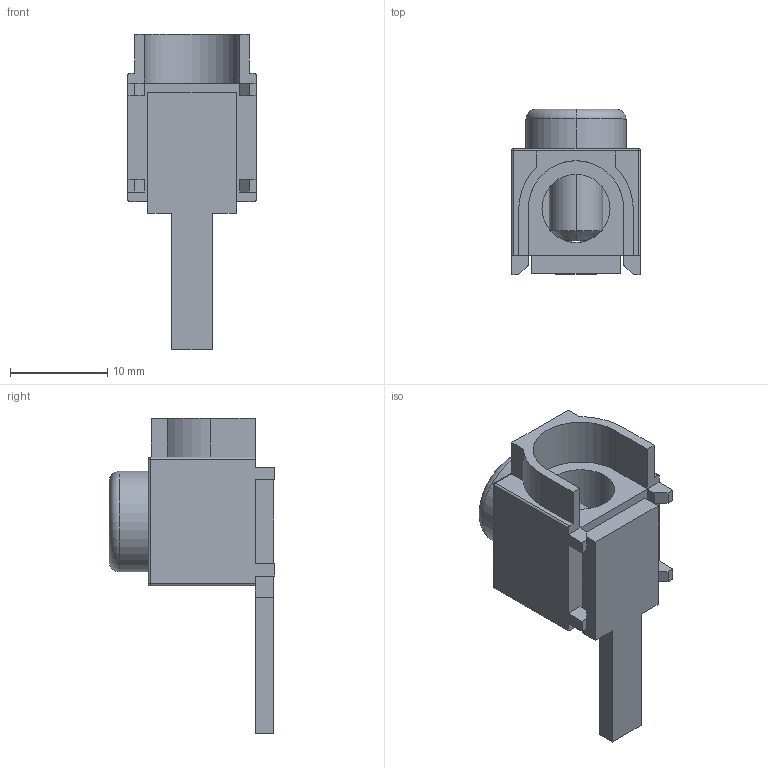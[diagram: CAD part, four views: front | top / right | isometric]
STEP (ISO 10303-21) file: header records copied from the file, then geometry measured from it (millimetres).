
FILE_DESCRIPTION (( 'STEP AP203' ), '1' );
FILE_NAME ('ck-f Çàæèì ïîä ïðîâîäíèê äëÿ ñîâì. ïîäêë. ñ øèíîé PIN ïîä ïåðåäíåå ñîåä.STEP', '2017-02-08T14:26:01', ( 'kuryshev' ), ( '' ), 'SwSTEP 2.0', 'SolidWorks 2010', '' );
FILE_SCHEMA (( 'CONFIG_CONTROL_DESIGN' ));
Length unit declared in the file: millimetre
Products named in the file (1): ck-f Çàæèì ïîä ïðîâîäíèê äëÿ ñîâì. ïîäêë. ñ øèíîé PIN ïîä ïåðåäíåå ñîåä
Bounding box: 13.2 x 17 x 32.4 mm (x, y, z)
Volume: 2255.6 mm3; surface area: 2169 mm2
Topology: 2 solids, 2 shells, 120 faces, 306 edges, 192 vertices
Faces by surface type: plane 91, cylinder 21, sphere 4, cone 2, torus 2
Entity records: 3613 total; most frequent: CARTESIAN_POINT 615, ORIENTED_EDGE 604, DIRECTION 596, EDGE_CURVE 302, LINE 250, VECTOR 250, VERTEX_POINT 192, AXIS2_PLACEMENT_3D 173
